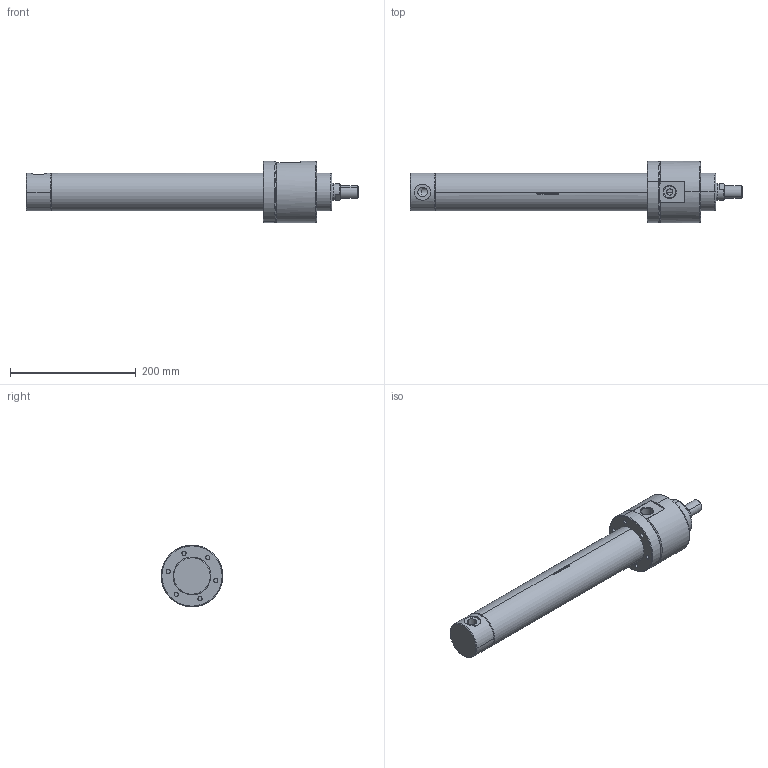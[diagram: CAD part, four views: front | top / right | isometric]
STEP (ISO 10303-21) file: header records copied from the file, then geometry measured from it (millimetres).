
FILE_DESCRIPTION (( 'STEP AP214' ), '1' );
FILE_NAME ('KHCC_50_28_300_WEB.STEP', '2020-12-15T11:41:52', ( '' ), ( '' ), 'SwSTEP 2.0', 'SolidWorks 2021', '' );
FILE_SCHEMA (( 'AUTOMOTIVE_DESIGN' ));
Length unit declared in the file: millimetre
Products named in the file (9): 50_28_gerdirme_flans; K06-28X38_2X5_3X7; 50_H.BORU_WEB; 50_28_烰_KAPAK; TYAK_50_60; 28_K_MIL_WEB; K32-28X38X6; KHCC_50_28_300_WEB
Assembly tree (8 placements, depth 3):
  KHCC_50_28_300_WEB
    50_28_烰_KAPAK
      50_28_烰_KAPAK
      K06-28X38_2X5_3X7
      K32-28X38X6
      50_28_gerdirme_flans
    50_H.BORU_WEB
    28_K_MIL_WEB
    TYAK_50_60
Bounding box: 528 x 98 x 98 mm (x, y, z)
Volume: 1005559.5 mm3; surface area: 240325.6 mm2
Topology: 7 solids, 7 shells, 468 faces, 1110 edges, 690 vertices
Faces by surface type: bspline 165, plane 120, cylinder 113, cone 66, torus 4
Entity records: 20644 total; most frequent: CARTESIAN_POINT 8588, ORIENTED_EDGE 2220, DIRECTION 1674, EDGE_CURVE 1110, VERTEX_POINT 690, AXIS2_PLACEMENT_3D 621, EDGE_LOOP 540, ADVANCED_FACE 468
